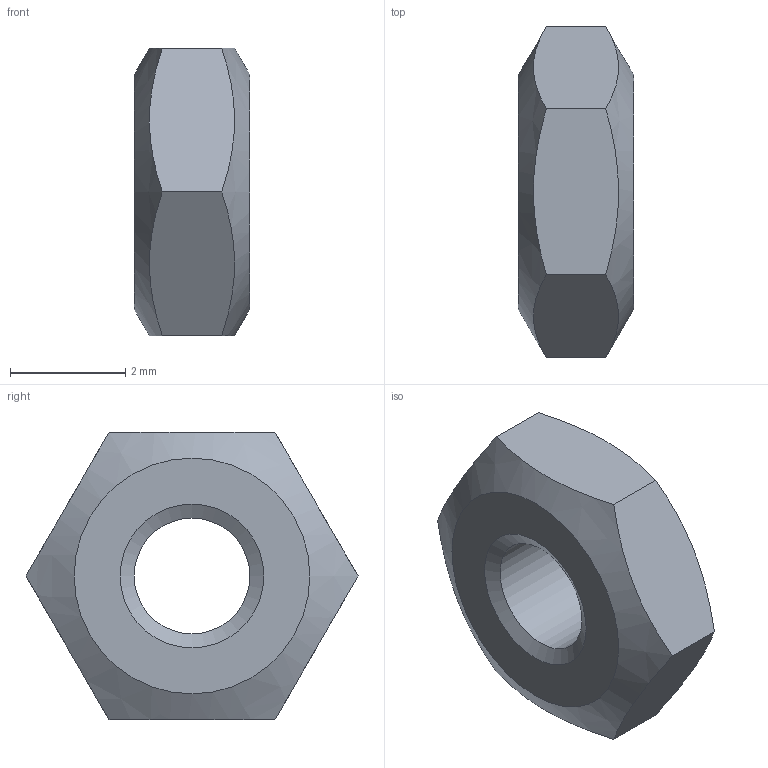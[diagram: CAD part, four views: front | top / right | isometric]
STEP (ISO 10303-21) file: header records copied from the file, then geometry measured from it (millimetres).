
FILE_DESCRIPTION(/* description */ ('Sechskantmutter DIN 934 - M2,5 x 0,45','CAx-IF Rec.Pracs.---Representation and Presentation of Product Manufacturing Information (PMI)---4.0---2014-10-13'),/* implementation_level */ '2;1');
FILE_NAME(/* name */ 'G:\Alle CAD Daten\CAMTEC_2020_Pack and Go\PSU CPS-i3000 - CPS-i2000\2530262.stp',/* time_stamp */ '2020-09-20T19:26:34+02:00',/* author */ ('rryba'),/* organization */ (''),/* preprocessor_version */ 'ST-DEVELOPER v18.1',/* originating_system */ 'Autodesk Inventor 2021',/* authorisation */ '');
FILE_SCHEMA (('AP242_MANAGED_MODEL_BASED_3D_ENGINEERING_MIM_LF { 1 0 10303 442 1 1 4 }'));
Length unit declared in the file: millimetre
Products named in the file (1): 2530262
Bounding box: 2 x 5.77 x 5 mm (x, y, z)
Volume: 33.7 mm3; surface area: 73.9 mm2
Topology: 1 solids, 1 shells, 13 faces, 42 edges, 43 vertices
Faces by surface type: plane 8, cone 4, cylinder 1
Full cylindrical faces by diameter (mm): 2.013 x1
Entity records: 479 total; most frequent: CARTESIAN_POINT 112, ORIENTED_EDGE 60, DIRECTION 55, EDGE_CURVE 30, AXIS2_PLACEMENT_3D 22, VERTEX_POINT 19, STYLED_ITEM 16, EDGE_LOOP 15
